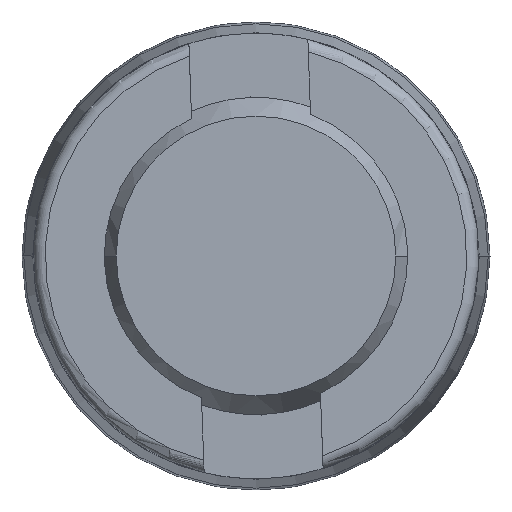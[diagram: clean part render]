
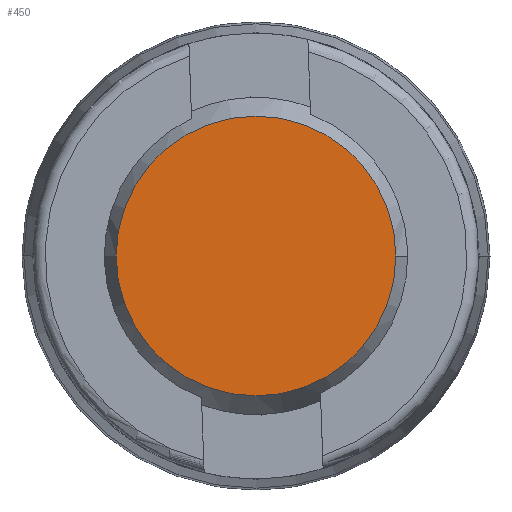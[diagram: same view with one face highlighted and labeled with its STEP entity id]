
A CAD part, front view. The second image highlights one B-rep face of the part: STEP entity #450.
In plain terms, the highlighted planar face has unit normal (0, -1, 0) as drawn and (-1, 0, 0) by its records, which use the part's own axes.
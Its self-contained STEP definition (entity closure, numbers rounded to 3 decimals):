
#36 = EDGE_CURVE ( 'NONE', #1989, #1304, #1990, .T. ) ;
#450 = ADVANCED_FACE ( 'NONE', ( #1555 ), #864, .F. ) ;
#563 = DIRECTION ( 'NONE',  ( 0., 0., -1. ) ) ;
#860 = AXIS2_PLACEMENT_3D ( 'NONE', #1705, #1547, #563 ) ;
#864 = PLANE ( 'NONE',  #860 ) ;
#916 = EDGE_LOOP ( 'NONE', ( #1017, #1021 ) ) ;
#1006 = CIRCLE ( 'NONE', #1077, 5.969 ) ;
#1008 = CARTESIAN_POINT ( 'NONE',  ( 0., 0., -5.969 ) ) ;
#1017 = ORIENTED_EDGE ( 'NONE', *, *, #1177, .T. ) ;
#1021 = ORIENTED_EDGE ( 'NONE', *, *, #36, .T. ) ;
#1077 = AXIS2_PLACEMENT_3D ( 'NONE', #1296, #1471, #1460 ) ;
#1082 = DIRECTION ( 'NONE',  ( 0., 0., 1. ) ) ;
#1177 = EDGE_CURVE ( 'NONE', #1304, #1989, #1006, .T. ) ;
#1201 = CARTESIAN_POINT ( 'NONE',  ( 0., 0., 5.969 ) ) ;
#1296 = CARTESIAN_POINT ( 'NONE',  ( 0., 0., 0. ) ) ;
#1304 = VERTEX_POINT ( 'NONE', #1008 ) ;
#1417 = CARTESIAN_POINT ( 'NONE',  ( 0., 0., 0. ) ) ;
#1460 = DIRECTION ( 'NONE',  ( 0., 0., 1. ) ) ;
#1471 = DIRECTION ( 'NONE',  ( -1., 0., 0. ) ) ;
#1547 = DIRECTION ( 'NONE',  ( 1., 0., 0. ) ) ;
#1555 = FACE_OUTER_BOUND ( 'NONE', #916, .T. ) ;
#1636 = AXIS2_PLACEMENT_3D ( 'NONE', #1417, #1737, #1082 ) ;
#1705 = CARTESIAN_POINT ( 'NONE',  ( 0., 5.969, 0. ) ) ;
#1737 = DIRECTION ( 'NONE',  ( -1., 0., 0. ) ) ;
#1989 = VERTEX_POINT ( 'NONE', #1201 ) ;
#1990 = CIRCLE ( 'NONE', #1636, 5.969 ) ;
